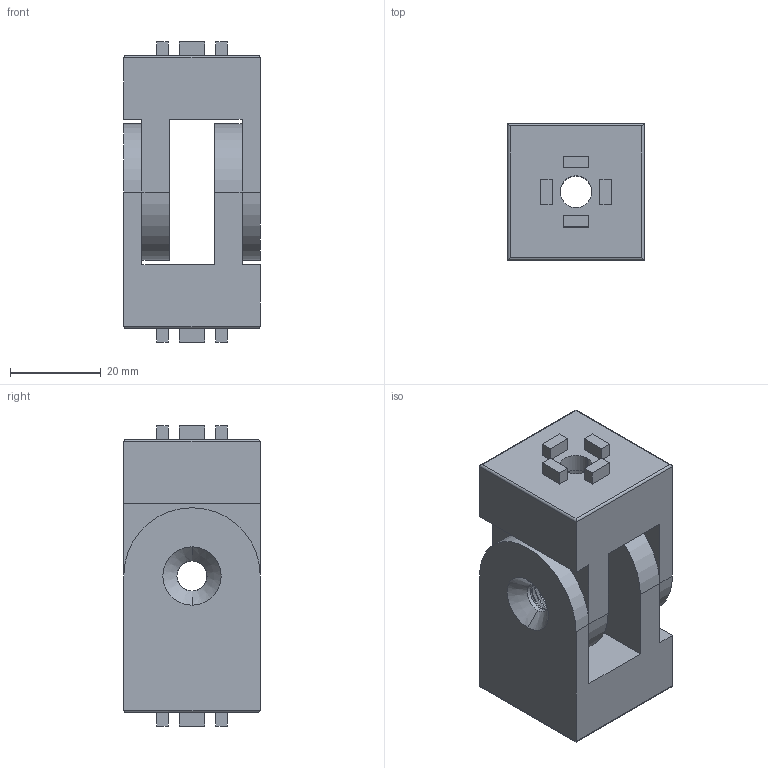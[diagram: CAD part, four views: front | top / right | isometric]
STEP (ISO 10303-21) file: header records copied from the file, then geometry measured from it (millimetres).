
FILE_DESCRIPTION (( 'STEP AP203' ), '1' );
FILE_NAME ('98-CE-HG3030-6.STEP', '2015-07-09T08:36:37', ( '' ), ( '' ), 'SwSTEP 2.0', 'SolidWorks 2013', '' );
FILE_SCHEMA (( 'CONFIG_CONTROL_DESIGN' ));
Length unit declared in the file: millimetre
Products named in the file (1): 98-CE-HG3030-6
Bounding box: 30 x 30 x 66 mm (x, y, z)
Surface area: 15735 mm2 (no closed solid volume)
Topology: 0 solids, 2 shells, 118 faces, 308 edges, 200 vertices
Faces by surface type: plane 60, cylinder 50, cone 4, bspline 4
Entity records: 5272 total; most frequent: CARTESIAN_POINT 2463, ORIENTED_EDGE 608, DIRECTION 508, EDGE_CURVE 308, VERTEX_POINT 200, VECTOR 198, LINE 198, AXIS2_PLACEMENT_3D 155
